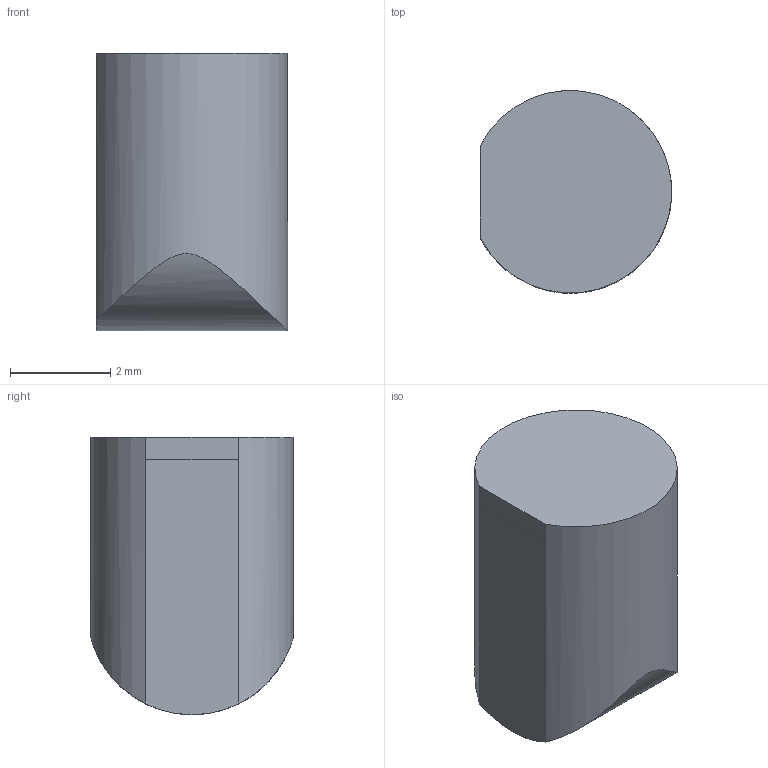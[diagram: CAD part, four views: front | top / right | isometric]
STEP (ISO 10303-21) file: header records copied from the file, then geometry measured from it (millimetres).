
FILE_DESCRIPTION(/* description */ (''),/* implementation_level */ '2;1');
FILE_NAME(/* name */ '05_Optical_C28_R3_4_L02_Light_Guide_Fit_Proxy.step',/* time_stamp */ '2026-09-20T10:25:48-07:00',/* author */ (''),/* organization */ (''),/* preprocessor_version */ 'ST-DEVELOPER v20.2',/* originating_system */ 'Autodesk Translation Framework v15.15.0.0',/* authorisation */ '');
FILE_SCHEMA (('AUTOMOTIVE_DESIGN { 1 0 10303 214 3 1 1 }'));
Length unit declared in the file: millimetre
Products named in the file (1): 2026-09-20-10-25-48-589
Bounding box: 3.82 x 4.05 x 5.55 mm (x, y, z)
Volume: 66.3 mm3; surface area: 89.8 mm2
Topology: 1 solids, 1 shells, 6 faces, 12 edges, 8 vertices
Faces by surface type: plane 4, cylinder 2
Entity records: 241 total; most frequent: CARTESIAN_POINT 77, DIRECTION 29, ORIENTED_EDGE 24, EDGE_CURVE 12, AXIS2_PLACEMENT_3D 11, VERTEX_POINT 8, LINE 7, VECTOR 7
